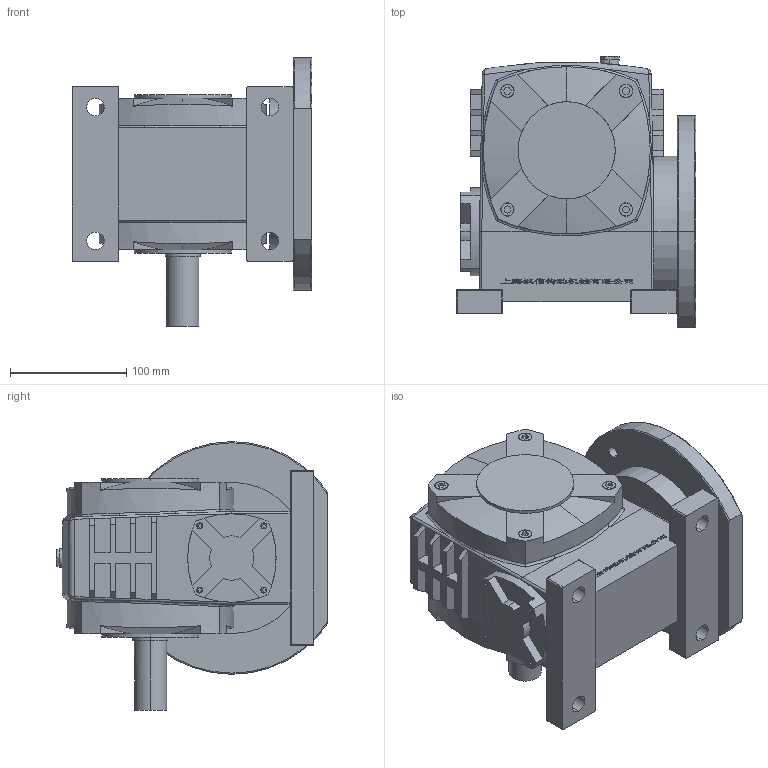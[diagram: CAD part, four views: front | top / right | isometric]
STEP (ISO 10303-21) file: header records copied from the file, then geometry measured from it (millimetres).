
FILE_DESCRIPTION (( 'STEP AP203' ), '1' );
FILE_NAME ('WPDA70.STEP', '2016-10-23T03:32:05', ( '' ), ( '' ), 'SwSTEP 2.0', 'SolidWorks 2014', '' );
FILE_SCHEMA (( 'CONFIG_CONTROL_DESIGN' ));
Length unit declared in the file: millimetre
Products named in the file (1): WPDA70
Bounding box: 206 x 233.5 x 231 mm (x, y, z)
Volume: 4111231.3 mm3; surface area: 288952 mm2
Topology: 14 solids, 14 shells, 1163 faces, 3029 edges, 1958 vertices
Faces by surface type: plane 705, bspline 232, cylinder 155, cone 26, torus 25, sphere 20
Entity records: 44471 total; most frequent: CARTESIAN_POINT 17360, ORIENTED_EDGE 6034, DIRECTION 4790, EDGE_CURVE 3017, LINE 2058, VECTOR 2058, VERTEX_POINT 1958, AXIS2_PLACEMENT_3D 1366
